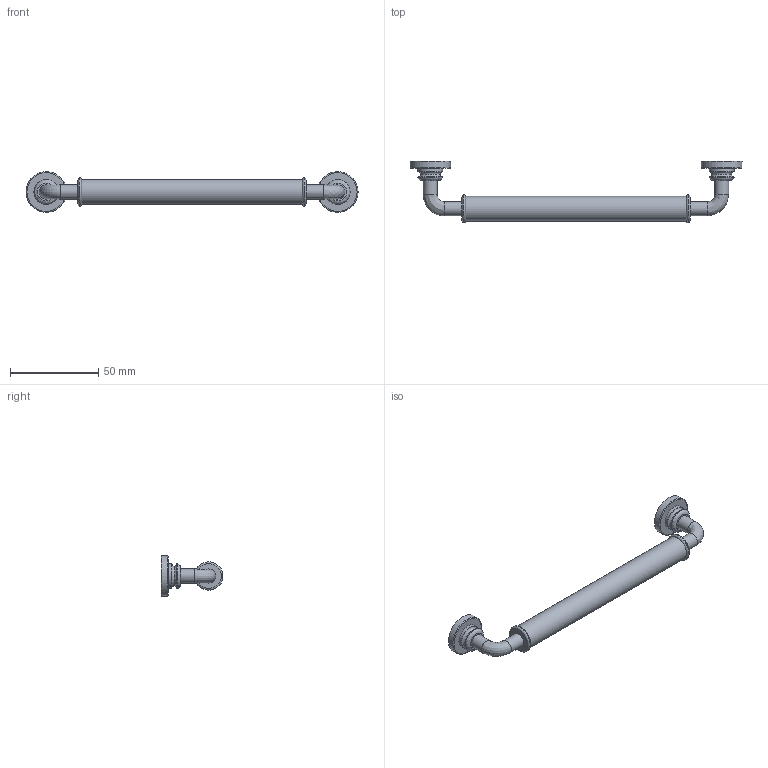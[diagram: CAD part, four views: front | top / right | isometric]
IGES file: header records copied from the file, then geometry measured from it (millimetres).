
Start section: Data from Parasolid IGES Translator 15.0.47, Copyright(c) 2006 Siemens P LM Software. All Rights Reserved.
Global section: file name: 9132271.igs; native system:  By UGS Corp.; preprocessor: XPlus GENERIC/IGES 3.0; author: Noname; organization: Noname; date: 20140122.102101; units: millimetre
Bounding box: 188 x 35 x 23 mm (x, y, z)
Surface area: 10525.4 mm2 (no closed solid volume)
Topology: 0 solids, 0 shells, 50 faces, 228 edges, 188 vertices
Faces by surface type: revolution 42, extrusion 8
